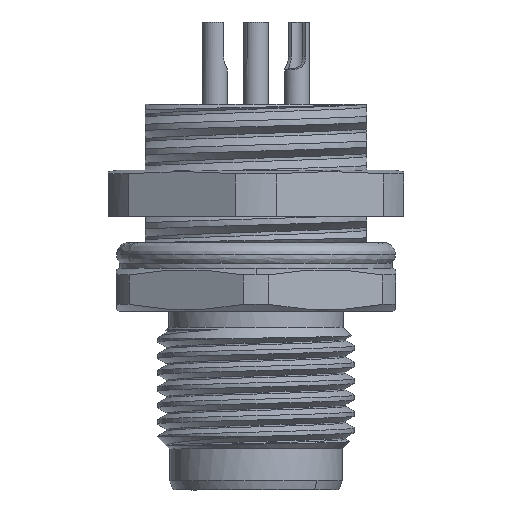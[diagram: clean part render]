
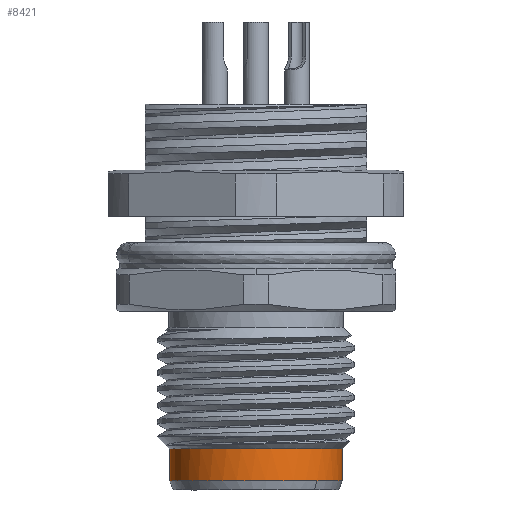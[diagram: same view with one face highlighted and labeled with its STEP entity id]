
A CAD part, front view. The second image highlights one B-rep face of the part: STEP entity #8421.
In plain terms, the highlighted cylindrical face has radius 5.25 mm (diameter 10.5 mm), a partial arc.
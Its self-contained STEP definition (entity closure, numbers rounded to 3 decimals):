
#1040 = VERTEX_POINT ( 'NONE', #26810 ) ;
#1060 = EDGE_CURVE ( 'NONE', #6061, #20362, #20304, .T. ) ;
#2881 = CARTESIAN_POINT ( 'NONE',  ( 14.65, 9.4, -21.556 ) ) ;
#3580 = ORIENTED_EDGE ( 'NONE', *, *, #26596, .F. ) ;
#4437 = CARTESIAN_POINT ( 'NONE',  ( 9.4, 9.4, -22.531 ) ) ;
#4656 = CARTESIAN_POINT ( 'NONE',  ( 9.4, 9.4, -23.507 ) ) ;
#5922 = DIRECTION ( 'NONE',  ( 0., 0., -1. ) ) ;
#6061 = VERTEX_POINT ( 'NONE', #12768 ) ;
#6646 = DIRECTION ( 'NONE',  ( 0., 0., 1. ) ) ;
#6814 = DIRECTION ( 'NONE',  ( -1., 0., 0. ) ) ;
#6942 = CARTESIAN_POINT ( 'NONE',  ( 9.4, 9.4, -23.507 ) ) ;
#7003 = CYLINDRICAL_SURFACE ( 'NONE', #32335, 5.25 ) ;
#7565 = DIRECTION ( 'NONE',  ( 0., 0., -1. ) ) ;
#7868 = FACE_OUTER_BOUND ( 'NONE', #9993, .T. ) ;
#8189 = VERTEX_POINT ( 'NONE', #2881 ) ;
#8421 = ADVANCED_FACE ( 'NONE', ( #7868 ), #7003, .T. ) ;
#9412 = ORIENTED_EDGE ( 'NONE', *, *, #10084, .T. ) ;
#9567 = EDGE_CURVE ( 'NONE', #20362, #1040, #16530, .T. ) ;
#9993 = EDGE_LOOP ( 'NONE', ( #17824, #3580, #16665, #14649, #9412 ) ) ;
#10084 = EDGE_CURVE ( 'NONE', #1040, #35175, #10387, .T. ) ;
#10387 = CIRCLE ( 'NONE', #21463, 5.25 ) ;
#12768 = CARTESIAN_POINT ( 'NONE',  ( 4.15, 9.4, -21.556 ) ) ;
#14649 = ORIENTED_EDGE ( 'NONE', *, *, #9567, .T. ) ;
#16530 = CIRCLE ( 'NONE', #24712, 5.25 ) ;
#16665 = ORIENTED_EDGE ( 'NONE', *, *, #1060, .T. ) ;
#17824 = ORIENTED_EDGE ( 'NONE', *, *, #32778, .F. ) ;
#20304 = LINE ( 'NONE', #26458, #34586 ) ;
#20362 = VERTEX_POINT ( 'NONE', #24498 ) ;
#20405 = CARTESIAN_POINT ( 'NONE',  ( 9.4, 9.4, -21.556 ) ) ;
#20749 = DIRECTION ( 'NONE',  ( 1., 0., 0. ) ) ;
#21463 = AXIS2_PLACEMENT_3D ( 'NONE', #6942, #23252, #6814 ) ;
#21695 = AXIS2_PLACEMENT_3D ( 'NONE', #20405, #6646, #20749 ) ;
#22629 = CARTESIAN_POINT ( 'NONE',  ( 14.65, 9.4, -23.507 ) ) ;
#22716 = CARTESIAN_POINT ( 'NONE',  ( 14.65, 9.4, -22.531 ) ) ;
#23252 = DIRECTION ( 'NONE',  ( 0., 0., 1. ) ) ;
#24498 = CARTESIAN_POINT ( 'NONE',  ( 4.15, 9.4, -23.507 ) ) ;
#24712 = AXIS2_PLACEMENT_3D ( 'NONE', #4656, #29477, #34794 ) ;
#26458 = CARTESIAN_POINT ( 'NONE',  ( 4.15, 9.4, -22.531 ) ) ;
#26596 = EDGE_CURVE ( 'NONE', #6061, #8189, #29021, .T. ) ;
#26810 = CARTESIAN_POINT ( 'NONE',  ( 13.112, 5.688, -23.507 ) ) ;
#27541 = DIRECTION ( 'NONE',  ( 0., 0., -1. ) ) ;
#29021 = CIRCLE ( 'NONE', #21695, 5.25 ) ;
#29477 = DIRECTION ( 'NONE',  ( 0., 0., 1. ) ) ;
#31485 = LINE ( 'NONE', #22716, #32769 ) ;
#32335 = AXIS2_PLACEMENT_3D ( 'NONE', #4437, #27541, #32987 ) ;
#32769 = VECTOR ( 'NONE', #5922, 1000. ) ;
#32778 = EDGE_CURVE ( 'NONE', #8189, #35175, #31485, .T. ) ;
#32987 = DIRECTION ( 'NONE',  ( -1., 0., 0. ) ) ;
#34586 = VECTOR ( 'NONE', #7565, 1000. ) ;
#34794 = DIRECTION ( 'NONE',  ( -1., 0., 0. ) ) ;
#35175 = VERTEX_POINT ( 'NONE', #22629 ) ;
